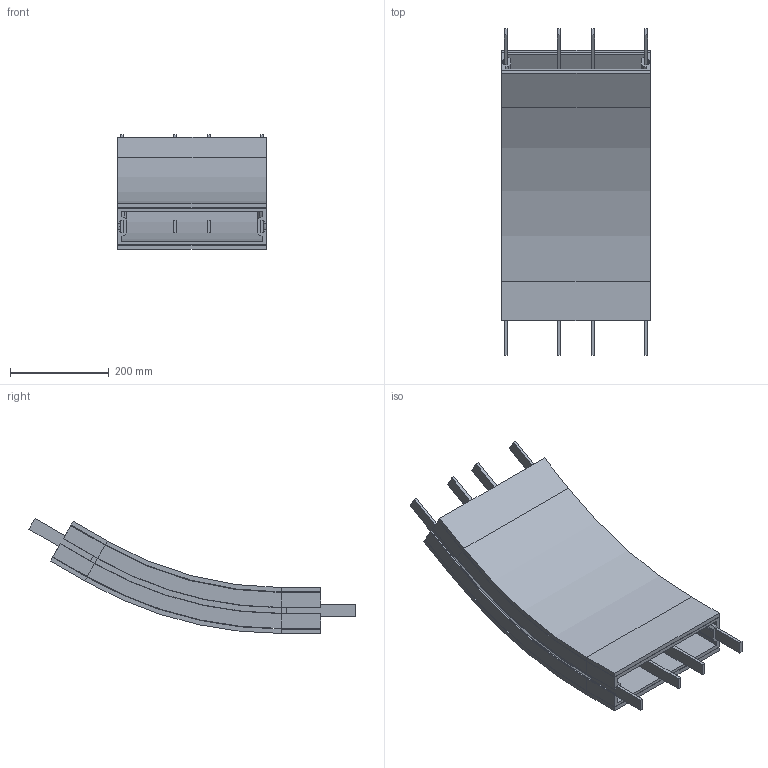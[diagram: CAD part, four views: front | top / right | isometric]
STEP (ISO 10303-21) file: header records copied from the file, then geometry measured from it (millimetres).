
FILE_DESCRIPTION (( 'STEP AP214' ), '1' );
FILE_NAME ('FBBV 30A300R750L80L80.00.step', '2026-05-29T10:33:37', ( '' ), ( '' ), 'SwSTEP 2.0', 'SolidWorks 2024', '' );
FILE_SCHEMA (( 'AUTOMOTIVE_DESIGN' ));
Length unit declared in the file: millimetre
Products named in the file (1): FBBV 30A300R750L80L80.00
Bounding box: 300 x 661.15 x 232.81 mm (x, y, z)
Volume: 6136435.2 mm3; surface area: 1629320 mm2
Topology: 11 solids, 11 shells, 375 faces, 845 edges, 492 vertices
Faces by surface type: plane 278, cone 66, cylinder 26, torus 5
Entity records: 10191 total; most frequent: DIRECTION 1724, CARTESIAN_POINT 1713, ORIENTED_EDGE 1690, EDGE_CURVE 845, LINE 718, VECTOR 718, AXIS2_PLACEMENT_3D 503, VERTEX_POINT 492
